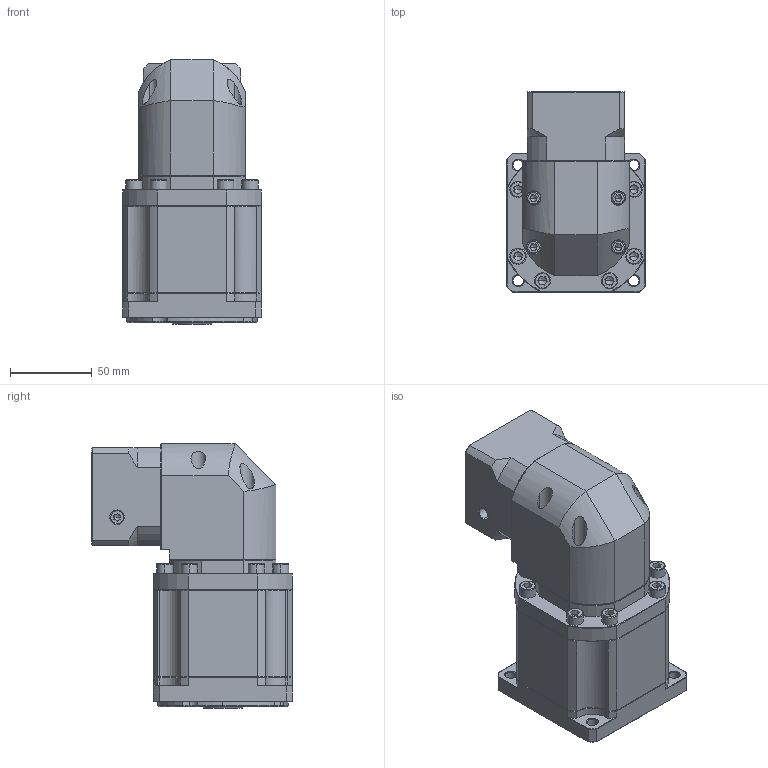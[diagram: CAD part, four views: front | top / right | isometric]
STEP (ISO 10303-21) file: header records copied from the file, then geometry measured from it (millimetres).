
FILE_DESCRIPTION (( 'STEP AP214' ), '1' );
FILE_NAME ('ZBR090-K15-L3-P2-14-50-70-M5.step', '2023-08-19T04:02:57', ( '' ), ( '' ), 'SwSTEP 2.0', 'SolidWorks 2016', '' );
FILE_SCHEMA (( 'AUTOMOTIVE_DESIGN' ));
Length unit declared in the file: millimetre
Products named in the file (1): ZBR090-K15-L3-P2-14-50-70-M5
Bounding box: 85 x 122.7 x 162 mm (x, y, z)
Volume: 903206.1 mm3; surface area: 103969.4 mm2
Topology: 5 solids, 5 shells, 2388 faces, 6333 edges, 4046 vertices
Faces by surface type: plane 1171, bspline 428, cylinder 418, cone 363, torus 8
Entity records: 123740 total; most frequent: CARTESIAN_POINT 41442, ORIENTED_EDGE 12578, DIRECTION 10122, EDGE_CURVE 6289, VERTEX_POINT 4046, VECTOR 3990, LINE 3990, AXIS2_PLACEMENT_3D 3066
